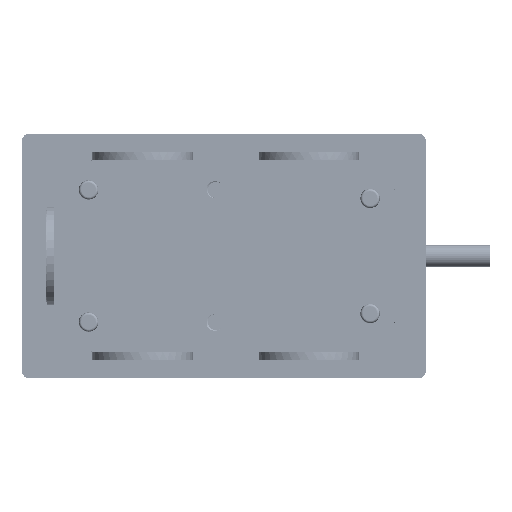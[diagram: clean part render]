
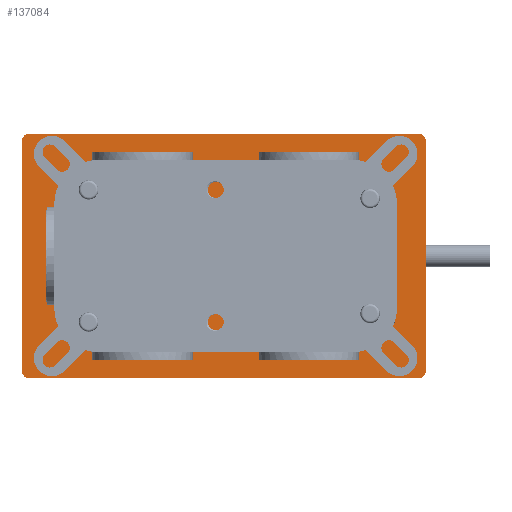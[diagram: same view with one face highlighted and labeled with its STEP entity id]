
A CAD part, front view. The second image highlights one B-rep face of the part: STEP entity #137084.
In plain terms, the highlighted planar face has unit normal (0, -1, 0) as drawn and (0, 0, 1) by its records, which use the part's own axes.
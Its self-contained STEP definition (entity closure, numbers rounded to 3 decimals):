
#657 = VERTEX_POINT ( 'NONE', #134322 ) ;
#874 = DIRECTION ( 'NONE',  ( 0., 0., 1. ) ) ;
#1881 = CARTESIAN_POINT ( 'NONE',  ( 47., -83.817, 2. ) ) ;
#2097 = VECTOR ( 'NONE', #110367, 1000. ) ;
#2489 = DIRECTION ( 'NONE',  ( 0., 0., 1. ) ) ;
#3032 = CARTESIAN_POINT ( 'NONE',  ( -47., -83.817, 2. ) ) ;
#3910 = LINE ( 'NONE', #24184, #100053 ) ;
#4090 = CIRCLE ( 'NONE', #106674, 21.5 ) ;
#4202 = ORIENTED_EDGE ( 'NONE', *, *, #96005, .F. ) ;
#5640 = DIRECTION ( 'NONE',  ( 0., 0., 1. ) ) ;
#6588 = EDGE_CURVE ( 'NONE', #9427, #44629, #57654, .T. ) ;
#9031 = AXIS2_PLACEMENT_3D ( 'NONE', #109930, #46376, #14301 ) ;
#9427 = VERTEX_POINT ( 'NONE', #17664 ) ;
#10783 = ORIENTED_EDGE ( 'NONE', *, *, #34642, .T. ) ;
#12262 = AXIS2_PLACEMENT_3D ( 'NONE', #61088, #134370, #125268 ) ;
#12678 = LINE ( 'NONE', #55281, #2097 ) ;
#13104 = ORIENTED_EDGE ( 'NONE', *, *, #65110, .T. ) ;
#13146 = VECTOR ( 'NONE', #65977, 1000. ) ;
#14301 = DIRECTION ( 'NONE',  ( 1., 0., 0. ) ) ;
#14710 = VERTEX_POINT ( 'NONE', #85672 ) ;
#15870 = ORIENTED_EDGE ( 'NONE', *, *, #61176, .F. ) ;
#16081 = VERTEX_POINT ( 'NONE', #56958 ) ;
#16128 = CARTESIAN_POINT ( 'NONE',  ( 47., 78.183, 2. ) ) ;
#17664 = CARTESIAN_POINT ( 'NONE',  ( 21.5, -36., 2. ) ) ;
#18109 = EDGE_LOOP ( 'NONE', ( #10783, #129895, #102551, #13104, #131549, #74246, #104683, #92490 ) ) ;
#19674 = AXIS2_PLACEMENT_3D ( 'NONE', #55557, #2489, #34591 ) ;
#20951 = FACE_BOUND ( 'NONE', #75906, .T. ) ;
#22315 = DIRECTION ( 'NONE',  ( 1., 0., 0. ) ) ;
#23407 = LINE ( 'NONE', #77114, #13146 ) ;
#23458 = CARTESIAN_POINT ( 'NONE',  ( -50., 78.183, 2. ) ) ;
#24184 = CARTESIAN_POINT ( 'NONE',  ( 50., -83.817, 2. ) ) ;
#25364 = VERTEX_POINT ( 'NONE', #23458 ) ;
#27404 = EDGE_CURVE ( 'NONE', #657, #25364, #53558, .T. ) ;
#28090 = FACE_BOUND ( 'NONE', #33094, .T. ) ;
#28565 = EDGE_CURVE ( 'NONE', #111665, #44705, #104627, .T. ) ;
#28877 = AXIS2_PLACEMENT_3D ( 'NONE', #94922, #128383, #22315 ) ;
#29733 = CARTESIAN_POINT ( 'NONE',  ( -21.5, -36., 2. ) ) ;
#31775 = CARTESIAN_POINT ( 'NONE',  ( 0., -36., 2. ) ) ;
#32765 = VECTOR ( 'NONE', #101948, 1000. ) ;
#33094 = EDGE_LOOP ( 'NONE', ( #15870, #81277 ) ) ;
#34591 = DIRECTION ( 'NONE',  ( 1., 0., 0. ) ) ;
#34642 = EDGE_CURVE ( 'NONE', #79534, #111665, #3910, .T. ) ;
#35251 = DIRECTION ( 'NONE',  ( 0., 0., 1. ) ) ;
#36022 = DIRECTION ( 'NONE',  ( 1., 0., 0. ) ) ;
#41569 = DIRECTION ( 'NONE',  ( 1., 0., 0. ) ) ;
#42155 = AXIS2_PLACEMENT_3D ( 'NONE', #52568, #874, #95824 ) ;
#42716 = EDGE_CURVE ( 'NONE', #44705, #14710, #124954, .T. ) ;
#44629 = VERTEX_POINT ( 'NONE', #29733 ) ;
#44705 = VERTEX_POINT ( 'NONE', #72298 ) ;
#44762 = VERTEX_POINT ( 'NONE', #107875 ) ;
#46376 = DIRECTION ( 'NONE',  ( 0., 0., 1. ) ) ;
#50618 = DIRECTION ( 'NONE',  ( 1., 0., 0. ) ) ;
#51018 = AXIS2_PLACEMENT_3D ( 'NONE', #16128, #5640, #71239 ) ;
#52568 = CARTESIAN_POINT ( 'NONE',  ( 47., -80.817, 2. ) ) ;
#53558 = CIRCLE ( 'NONE', #124513, 3. ) ;
#55281 = CARTESIAN_POINT ( 'NONE',  ( -50., -83.817, 2. ) ) ;
#55557 = CARTESIAN_POINT ( 'NONE',  ( 0., -36., 2. ) ) ;
#56958 = CARTESIAN_POINT ( 'NONE',  ( 47., 81.183, 2. ) ) ;
#57654 = CIRCLE ( 'NONE', #19674, 21.5 ) ;
#57707 = CIRCLE ( 'NONE', #51018, 3. ) ;
#61088 = CARTESIAN_POINT ( 'NONE',  ( 0., 32., 2. ) ) ;
#61176 = EDGE_CURVE ( 'NONE', #44629, #9427, #4090, .T. ) ;
#61303 = CIRCLE ( 'NONE', #12262, 10.5 ) ;
#64898 = PLANE ( 'NONE',  #28877 ) ;
#65110 = EDGE_CURVE ( 'NONE', #14710, #16081, #57707, .T. ) ;
#65977 = DIRECTION ( 'NONE',  ( -1., 0., 0. ) ) ;
#68733 = DIRECTION ( 'NONE',  ( 1., 0., 0. ) ) ;
#71239 = DIRECTION ( 'NONE',  ( 1., 0., 0. ) ) ;
#72298 = CARTESIAN_POINT ( 'NONE',  ( 50., -80.817, 2. ) ) ;
#73145 = CIRCLE ( 'NONE', #137720, 10.5 ) ;
#73684 = CARTESIAN_POINT ( 'NONE',  ( -47., 78.183, 2. ) ) ;
#74246 = ORIENTED_EDGE ( 'NONE', *, *, #27404, .T. ) ;
#75050 = EDGE_CURVE ( 'NONE', #44762, #79534, #129383, .T. ) ;
#75906 = EDGE_LOOP ( 'NONE', ( #112078, #4202 ) ) ;
#77114 = CARTESIAN_POINT ( 'NONE',  ( 50., 81.183, 2. ) ) ;
#79534 = VERTEX_POINT ( 'NONE', #3032 ) ;
#81277 = ORIENTED_EDGE ( 'NONE', *, *, #6588, .F. ) ;
#81452 = VERTEX_POINT ( 'NONE', #89521 ) ;
#85672 = CARTESIAN_POINT ( 'NONE',  ( 50., 78.183, 2. ) ) ;
#86502 = FACE_OUTER_BOUND ( 'NONE', #18109, .T. ) ;
#89521 = CARTESIAN_POINT ( 'NONE',  ( -10.5, 32., 2. ) ) ;
#90364 = VERTEX_POINT ( 'NONE', #131156 ) ;
#92490 = ORIENTED_EDGE ( 'NONE', *, *, #75050, .T. ) ;
#94922 = CARTESIAN_POINT ( 'NONE',  ( 0., 0., 2. ) ) ;
#95824 = DIRECTION ( 'NONE',  ( 1., 0., 0. ) ) ;
#96005 = EDGE_CURVE ( 'NONE', #90364, #81452, #73145, .T. ) ;
#100053 = VECTOR ( 'NONE', #36022, 1000. ) ;
#101948 = DIRECTION ( 'NONE',  ( 0., 1., 0. ) ) ;
#102551 = ORIENTED_EDGE ( 'NONE', *, *, #42716, .T. ) ;
#104397 = DIRECTION ( 'NONE',  ( 0., 0., 1. ) ) ;
#104627 = CIRCLE ( 'NONE', #42155, 3. ) ;
#104683 = ORIENTED_EDGE ( 'NONE', *, *, #134436, .T. ) ;
#106674 = AXIS2_PLACEMENT_3D ( 'NONE', #31775, #116916, #50618 ) ;
#107875 = CARTESIAN_POINT ( 'NONE',  ( -50., -80.817, 2. ) ) ;
#109930 = CARTESIAN_POINT ( 'NONE',  ( -47., -80.817, 2. ) ) ;
#110367 = DIRECTION ( 'NONE',  ( 0., -1., 0. ) ) ;
#111665 = VERTEX_POINT ( 'NONE', #1881 ) ;
#112078 = ORIENTED_EDGE ( 'NONE', *, *, #128243, .F. ) ;
#116916 = DIRECTION ( 'NONE',  ( 0., 0., 1. ) ) ;
#124513 = AXIS2_PLACEMENT_3D ( 'NONE', #73684, #104397, #41569 ) ;
#124954 = LINE ( 'NONE', #125651, #32765 ) ;
#125268 = DIRECTION ( 'NONE',  ( 1., 0., 0. ) ) ;
#125651 = CARTESIAN_POINT ( 'NONE',  ( 50., -83.817, 2. ) ) ;
#128243 = EDGE_CURVE ( 'NONE', #81452, #90364, #61303, .T. ) ;
#128383 = DIRECTION ( 'NONE',  ( 0., 0., 1. ) ) ;
#129383 = CIRCLE ( 'NONE', #9031, 3. ) ;
#129895 = ORIENTED_EDGE ( 'NONE', *, *, #28565, .T. ) ;
#130849 = CARTESIAN_POINT ( 'NONE',  ( 0., 32., 2. ) ) ;
#131156 = CARTESIAN_POINT ( 'NONE',  ( 10.5, 32., 2. ) ) ;
#131549 = ORIENTED_EDGE ( 'NONE', *, *, #133617, .T. ) ;
#133617 = EDGE_CURVE ( 'NONE', #16081, #657, #23407, .T. ) ;
#134322 = CARTESIAN_POINT ( 'NONE',  ( -47., 81.183, 2. ) ) ;
#134370 = DIRECTION ( 'NONE',  ( 0., 0., 1. ) ) ;
#134436 = EDGE_CURVE ( 'NONE', #25364, #44762, #12678, .T. ) ;
#137084 = ADVANCED_FACE ( 'NONE', ( #20951, #86502, #28090 ), #64898, .T. ) ;
#137720 = AXIS2_PLACEMENT_3D ( 'NONE', #130849, #35251, #68733 ) ;
